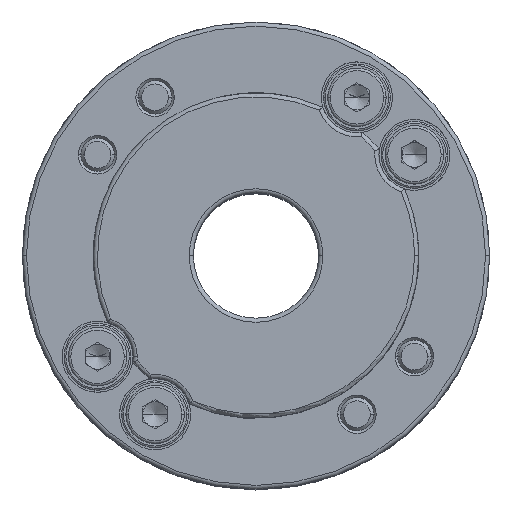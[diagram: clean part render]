
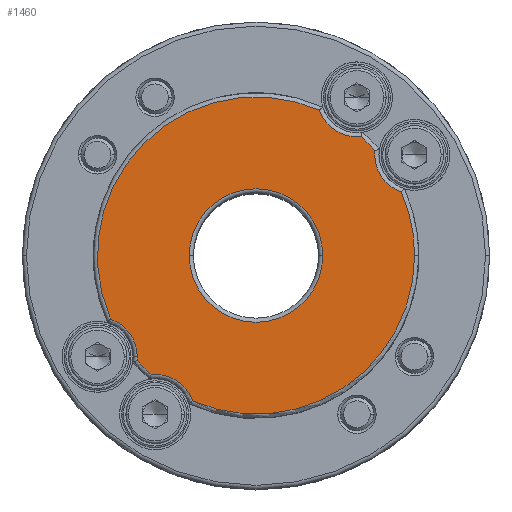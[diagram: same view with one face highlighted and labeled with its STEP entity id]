
A CAD part, top view. The second image highlights one B-rep face of the part: STEP entity #1460.
In plain terms, the highlighted planar face has unit normal (0, 0, 1).
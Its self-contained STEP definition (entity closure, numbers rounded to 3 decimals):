
#468 = ORIENTED_EDGE ( 'NONE', *, *, #469, .T. ) ;
#469 = EDGE_CURVE ( 'NONE', #1428, #470, #3358, .T. ) ;
#470 = VERTEX_POINT ( 'NONE', #3455 ) ;
#644 = ORIENTED_EDGE ( 'NONE', *, *, #645, .T. ) ;
#645 = EDGE_CURVE ( 'NONE', #470, #646, #3555, .T. ) ;
#646 = VERTEX_POINT ( 'NONE', #3556 ) ;
#647 = ORIENTED_EDGE ( 'NONE', *, *, #656, .T. ) ;
#656 = EDGE_CURVE ( 'NONE', #646, #657, #3757, .T. ) ;
#657 = VERTEX_POINT ( 'NONE', #3646 ) ;
#658 = ORIENTED_EDGE ( 'NONE', *, *, #659, .T. ) ;
#659 = EDGE_CURVE ( 'NONE', #657, #1143, #3753, .T. ) ;
#660 = ORIENTED_EDGE ( 'NONE', *, *, #1142, .T. ) ;
#661 = ORIENTED_EDGE ( 'NONE', *, *, #662, .T. ) ;
#662 = EDGE_CURVE ( 'NONE', #1144, #663, #3747, .T. ) ;
#663 = VERTEX_POINT ( 'NONE', #3748 ) ;
#664 = ORIENTED_EDGE ( 'NONE', *, *, #665, .T. ) ;
#665 = EDGE_CURVE ( 'NONE', #663, #1069, #3742, .T. ) ;
#666 = ORIENTED_EDGE ( 'NONE', *, *, #1068, .T. ) ;
#667 = ORIENTED_EDGE ( 'NONE', *, *, #668, .T. ) ;
#668 = EDGE_CURVE ( 'NONE', #1010, #1427, #3737, .T. ) ;
#948 = VERTEX_POINT ( 'NONE', #4449 ) ;
#949 = VERTEX_POINT ( 'NONE', #4443 ) ;
#1010 = VERTEX_POINT ( 'NONE', #4672 ) ;
#1068 = EDGE_CURVE ( 'NONE', #1069, #1010, #4908, .T. ) ;
#1069 = VERTEX_POINT ( 'NONE', #4904 ) ;
#1142 = EDGE_CURVE ( 'NONE', #1143, #1144, #4873, .T. ) ;
#1143 = VERTEX_POINT ( 'NONE', #4868 ) ;
#1144 = VERTEX_POINT ( 'NONE', #4867 ) ;
#1174 = EDGE_CURVE ( 'NONE', #948, #949, #4901, .T. ) ;
#1423 = ORIENTED_EDGE ( 'NONE', *, *, #1174, .T. ) ;
#1424 = EDGE_LOOP ( 'NONE', ( #1425, #468, #644, #647, #658, #660, #661, #664, #666, #667 ) ) ;
#1425 = ORIENTED_EDGE ( 'NONE', *, *, #1426, .T. ) ;
#1426 = EDGE_CURVE ( 'NONE', #1427, #1428, #5513, .T. ) ;
#1427 = VERTEX_POINT ( 'NONE', #5514 ) ;
#1428 = VERTEX_POINT ( 'NONE', #5508 ) ;
#1460 = ADVANCED_FACE ( 'NONE', ( #5574, #5568 ), #5593, .T. ) ;
#1461 = EDGE_LOOP ( 'NONE', ( #1462, #1423 ) ) ;
#1462 = ORIENTED_EDGE ( 'NONE', *, *, #1463, .T. ) ;
#1463 = EDGE_CURVE ( 'NONE', #949, #948, #5588, .T. ) ;
#3358 = CIRCLE ( 'NONE', #3459, 19. ) ;
#3455 = CARTESIAN_POINT ( 'NONE',  ( 12.567, 14.25, 19.5 ) ) ;
#3456 = DIRECTION ( 'NONE',  ( 1., 0., 0. ) ) ;
#3457 = DIRECTION ( 'NONE',  ( 0., 0., 1. ) ) ;
#3458 = CARTESIAN_POINT ( 'NONE',  ( 0., 0., 19.5 ) ) ;
#3459 = AXIS2_PLACEMENT_3D ( 'NONE', #3458, #3457, #3456 ) ;
#3551 = DIRECTION ( 'NONE',  ( 1., 0., 0. ) ) ;
#3552 = DIRECTION ( 'NONE',  ( 0., 0., -1. ) ) ;
#3553 = CARTESIAN_POINT ( 'NONE',  ( 12.089, 18.976, 19.5 ) ) ;
#3554 = AXIS2_PLACEMENT_3D ( 'NONE', #3553, #3552, #3551 ) ;
#3555 = CIRCLE ( 'NONE', #3554, 4.75 ) ;
#3556 = CARTESIAN_POINT ( 'NONE',  ( 7.604, 17.412, 19.5 ) ) ;
#3645 = CARTESIAN_POINT ( 'NONE',  ( 0., 0., 19.5 ) ) ;
#3646 = CARTESIAN_POINT ( 'NONE',  ( -17.412, -7.604, 19.5 ) ) ;
#3733 = DIRECTION ( 'NONE',  ( 1., 0., 0. ) ) ;
#3734 = DIRECTION ( 'NONE',  ( 0., 0., 1. ) ) ;
#3735 = CARTESIAN_POINT ( 'NONE',  ( 0., 0., 19.5 ) ) ;
#3736 = AXIS2_PLACEMENT_3D ( 'NONE', #3735, #3734, #3733 ) ;
#3737 = CIRCLE ( 'NONE', #3736, 19. ) ;
#3738 = DIRECTION ( 'NONE',  ( 1., 0., 0. ) ) ;
#3739 = DIRECTION ( 'NONE',  ( 0., 0., -1. ) ) ;
#3740 = CARTESIAN_POINT ( 'NONE',  ( -12.089, -18.976, 19.5 ) ) ;
#3741 = AXIS2_PLACEMENT_3D ( 'NONE', #3740, #3739, #3738 ) ;
#3742 = CIRCLE ( 'NONE', #3741, 4.75 ) ;
#3743 = DIRECTION ( 'NONE',  ( 1., 0., 0. ) ) ;
#3744 = DIRECTION ( 'NONE',  ( 0., 0., 1. ) ) ;
#3745 = CARTESIAN_POINT ( 'NONE',  ( 0., 0., 19.5 ) ) ;
#3746 = AXIS2_PLACEMENT_3D ( 'NONE', #3745, #3744, #3743 ) ;
#3747 = CIRCLE ( 'NONE', #3746, 19. ) ;
#3748 = CARTESIAN_POINT ( 'NONE',  ( -12.567, -14.25, 19.5 ) ) ;
#3749 = DIRECTION ( 'NONE',  ( 1., 0., 0. ) ) ;
#3750 = DIRECTION ( 'NONE',  ( 0., 0., -1. ) ) ;
#3751 = CARTESIAN_POINT ( 'NONE',  ( -18.976, -12.089, 19.5 ) ) ;
#3752 = AXIS2_PLACEMENT_3D ( 'NONE', #3751, #3750, #3749 ) ;
#3753 = CIRCLE ( 'NONE', #3752, 4.75 ) ;
#3754 = DIRECTION ( 'NONE',  ( 1., 0., 0. ) ) ;
#3755 = DIRECTION ( 'NONE',  ( 0., 0., 1. ) ) ;
#3756 = AXIS2_PLACEMENT_3D ( 'NONE', #3645, #3755, #3754 ) ;
#3757 = CIRCLE ( 'NONE', #3756, 19. ) ;
#4443 = CARTESIAN_POINT ( 'NONE',  ( 8., 0., 19.5 ) ) ;
#4449 = CARTESIAN_POINT ( 'NONE',  ( -8., 0., 19.5 ) ) ;
#4672 = CARTESIAN_POINT ( 'NONE',  ( 19., 0., 19.5 ) ) ;
#4867 = CARTESIAN_POINT ( 'NONE',  ( -14.25, -12.567, 19.5 ) ) ;
#4868 = CARTESIAN_POINT ( 'NONE',  ( -14.226, -12.089, 19.5 ) ) ;
#4869 = DIRECTION ( 'NONE',  ( 1., 0., 0. ) ) ;
#4870 = DIRECTION ( 'NONE',  ( 0., 0., -1. ) ) ;
#4871 = CARTESIAN_POINT ( 'NONE',  ( -18.976, -12.089, 19.5 ) ) ;
#4872 = AXIS2_PLACEMENT_3D ( 'NONE', #4871, #4870, #4869 ) ;
#4873 = CIRCLE ( 'NONE', #4872, 4.75 ) ;
#4897 = DIRECTION ( 'NONE',  ( 1., 0., 0. ) ) ;
#4898 = DIRECTION ( 'NONE',  ( 0., 0., -1. ) ) ;
#4899 = CARTESIAN_POINT ( 'NONE',  ( 0., 0., 19.5 ) ) ;
#4900 = AXIS2_PLACEMENT_3D ( 'NONE', #4899, #4898, #4897 ) ;
#4901 = CIRCLE ( 'NONE', #4900, 8. ) ;
#4904 = CARTESIAN_POINT ( 'NONE',  ( -7.604, -17.412, 19.5 ) ) ;
#4905 = DIRECTION ( 'NONE',  ( 1., 0., 0. ) ) ;
#4906 = DIRECTION ( 'NONE',  ( 0., 0., 1. ) ) ;
#4907 = AXIS2_PLACEMENT_3D ( 'NONE', #4938, #4906, #4905 ) ;
#4908 = CIRCLE ( 'NONE', #4907, 19. ) ;
#4938 = CARTESIAN_POINT ( 'NONE',  ( 0., 0., 19.5 ) ) ;
#5508 = CARTESIAN_POINT ( 'NONE',  ( 14.25, 12.567, 19.5 ) ) ;
#5509 = DIRECTION ( 'NONE',  ( 1., 0., 0. ) ) ;
#5510 = DIRECTION ( 'NONE',  ( 0., 0., -1. ) ) ;
#5511 = CARTESIAN_POINT ( 'NONE',  ( 18.976, 12.089, 19.5 ) ) ;
#5512 = AXIS2_PLACEMENT_3D ( 'NONE', #5511, #5510, #5509 ) ;
#5513 = CIRCLE ( 'NONE', #5512, 4.75 ) ;
#5514 = CARTESIAN_POINT ( 'NONE',  ( 17.412, 7.604, 19.5 ) ) ;
#5568 = FACE_OUTER_BOUND ( 'NONE', #1424, .T. ) ;
#5574 = FACE_BOUND ( 'NONE', #1461, .T. ) ;
#5585 = DIRECTION ( 'NONE',  ( 1., 0., 0. ) ) ;
#5586 = DIRECTION ( 'NONE',  ( 0., 0., -1. ) ) ;
#5587 = AXIS2_PLACEMENT_3D ( 'NONE', #5594, #5586, #5585 ) ;
#5588 = CIRCLE ( 'NONE', #5587, 8. ) ;
#5589 = DIRECTION ( 'NONE',  ( 1., 0., 0. ) ) ;
#5590 = DIRECTION ( 'NONE',  ( 0., 0., 1. ) ) ;
#5591 = CARTESIAN_POINT ( 'NONE',  ( 0., -61.741, 19.5 ) ) ;
#5592 = AXIS2_PLACEMENT_3D ( 'NONE', #5591, #5590, #5589 ) ;
#5593 = PLANE ( 'NONE',  #5592 ) ;
#5594 = CARTESIAN_POINT ( 'NONE',  ( 0., 0., 19.5 ) ) ;
